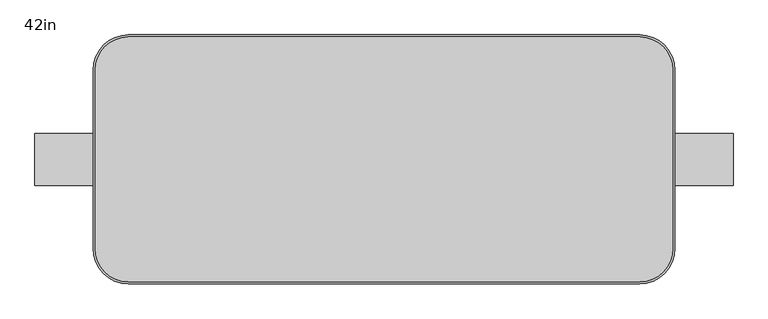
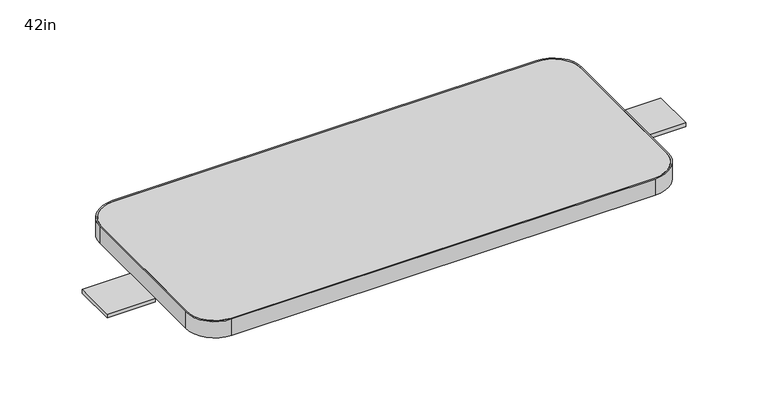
"""IFC4 building model written with IfcOpenShell, lengths in millimetres: furniture geometry, Steelcase - Answer Solution - Transaction Worksurface - Square Trim - 3mm Edge : 42in."""

from ifc_helpers import new_model, si_unit, point, frame, frame_2d, origin, place, context, project, spatial, polyline, circle_curve, trimmed, segment, composite_curve, outline, extrude, source, transform, mapped, element, save


def furniture_42in_8c8d06e0(model_context):
    return source(origin(), model_context, "Body", "SweptSolid", [
        extrude(outline(polyline([(88.9003876, 0.0), (88.9003876, -79.3748062), (0.0, -79.3748062), (0.0, 0.0), (88.9003876, 0.0)])), frame((0.0, 0.0, 1044.7273647), z_axis=(0.0, 0.0, 1.0), x_axis=(1.0, 0.0, 0.0)), (0.0, 0.0, 1.0), 7.340613),
        extrude(outline(polyline([(1066.8, 0.0), (1066.8, -79.3748062), (977.8996124, -79.3748062), (977.8996124, 0.0), (1066.8, 0.0)])), frame((0.0, 0.0, 1044.7273647), z_axis=(0.0, 0.0, 1.0), x_axis=(1.0, 0.0, 0.0)), (0.0, 0.0, 1.0), 7.340613),
        extrude(outline(composite_curve([segment(trimmed(circle_curve(frame_2d((923.9248062, 96.8375)), 50.8), [point((923.9248062, 147.6375))], [point((974.7248062, 96.8375))], False, "CARTESIAN"), True, "CONTINUOUS"), segment(polyline([(974.7248062, 96.8375), (974.7248062, -176.2123062)]), True, "CONTINUOUS"), segment(trimmed(circle_curve(frame_2d((923.9248062, -176.2123062)), 50.8), [point((974.7248062, -176.2123062))], [point((923.9248062, -227.0123062))], False, "CARTESIAN"), True, "CONTINUOUS"), segment(polyline([(923.9248062, -227.0123062), (142.8751938, -227.0123062)]), True, "CONTINUOUS"), segment(trimmed(circle_curve(frame_2d((142.8751938, -176.2123062)), 50.8), [point((142.8751938, -227.0123062))], [point((92.0751938, -176.2123062))], False, "CARTESIAN"), True, "CONTINUOUS"), segment(polyline([(92.0751938, -176.2123062), (92.0751938, 96.8375)]), True, "CONTINUOUS"), segment(trimmed(circle_curve(frame_2d((142.8751938, 96.8375)), 50.8), [point((92.0751938, 96.8375))], [point((142.8751938, 147.6375))], False, "CARTESIAN"), True, "CONTINUOUS"), segment(polyline([(142.8751938, 147.6375), (923.9248062, 147.6375)]), True, "CONTINUOUS")], self_intersect=False)), frame((0.0, 0.0, 1052.0679777), z_axis=(0.0, 0.0, 1.0), x_axis=(1.0, 0.0, 0.0)), (0.0, 0.0, 1.0), 31.7500242),
        extrude(outline(composite_curve([segment(polyline([(923.9248062, -230.1871124), (142.8751938, -230.1871124)]), True, "CONTINUOUS"), segment(trimmed(circle_curve(frame_2d((142.8751938, -176.2123062)), 53.9748062), [point((142.8751938, -230.1871124))], [point((88.9003876, -176.2123062))], False, "CARTESIAN"), True, "CONTINUOUS"), segment(polyline([(88.9003876, -176.2123062), (88.9003876, 96.8375)]), True, "CONTINUOUS"), segment(trimmed(circle_curve(frame_2d((142.8751938, 96.8375)), 53.9748062), [point((88.9003876, 96.8375))], [point((142.8751938, 150.8123062))], False, "CARTESIAN"), True, "CONTINUOUS"), segment(polyline([(142.8751938, 150.8123062), (923.9248062, 150.8123062)]), True, "CONTINUOUS"), segment(trimmed(circle_curve(frame_2d((923.9248062, 96.8375)), 53.9748062), [point((923.9248062, 150.8123062))], [point((977.8996124, 96.8375))], False, "CARTESIAN"), True, "CONTINUOUS"), segment(polyline([(977.8996124, 96.8375), (977.8996124, -176.2123062)]), True, "CONTINUOUS"), segment(trimmed(circle_curve(frame_2d((923.9248062, -176.2123062)), 53.9748062), [point((977.8996124, -176.2123062))], [point((923.9248062, -230.1871124))], False, "CARTESIAN"), True, "CONTINUOUS")], self_intersect=False), holes=[composite_curve([segment(trimmed(circle_curve(frame_2d((142.8751938, 96.8375)), 50.8), [point((142.8751938, 147.6375))], [point((92.0751938, 96.8375))], True, "CARTESIAN"), True, "CONTINUOUS"), segment(polyline([(92.0751938, 96.8375), (92.0751938, -176.2123062)]), True, "CONTINUOUS"), segment(trimmed(circle_curve(frame_2d((142.8751938, -176.2123062)), 50.8), [point((92.0751938, -176.2123062))], [point((142.8751938, -227.0123062))], True, "CARTESIAN"), True, "CONTINUOUS"), segment(polyline([(142.8751938, -227.0123062), (923.9248062, -227.0123062)]), True, "CONTINUOUS"), segment(trimmed(circle_curve(frame_2d((923.9248062, -176.2123062)), 50.8), [point((923.9248062, -227.0123062))], [point((974.7248062, -176.2123062))], True, "CARTESIAN"), True, "CONTINUOUS"), segment(polyline([(974.7248062, -176.2123062), (974.7248062, 96.8375)]), True, "CONTINUOUS"), segment(trimmed(circle_curve(frame_2d((923.9248062, 96.8375)), 50.8), [point((974.7248062, 96.8375))], [point((923.9248062, 147.6375))], True, "CARTESIAN"), True, "CONTINUOUS"), segment(polyline([(923.9248062, 147.6375), (142.8751938, 147.6375)]), True, "CONTINUOUS")], self_intersect=False)]), frame((0.0, 0.0, 1052.0679777), z_axis=(0.0, 0.0, 1.0), x_axis=(1.0, 0.0, 0.0)), (0.0, 0.0, 1.0), 31.7500242),
    ])


if __name__ == "__main__":
    model = new_model("IFC4")
    model_context = context("Model", 3, world=origin())
    ifc_project = project(units=[si_unit("LENGTHUNIT", "METRE", prefix="MILLI")], contexts=[model_context])
    site = spatial("IfcSite", under=ifc_project)
    building = spatial("IfcBuilding", under=site)
    placement = place(None, origin())
    furniture_42in_shape = furniture_42in_8c8d06e0(model_context)
    element("IfcFurniture", 1, ObjectType="Steelcase - Answer Solution - Transaction Worksurface - Square Trim - 3mm Edge : 42in", at=placement, inside=building, context=model_context, shape_type="MappedRepresentation", body=[
        mapped(furniture_42in_shape, transform((0.0, 0.0, 0.0), x_axis=(1.0, 0.0, 0.0), y_axis=(0.0, 1.0, 0.0), z_axis=(0.0, 0.0, 1.0))),
    ])
    save(model, "model.ifc")
